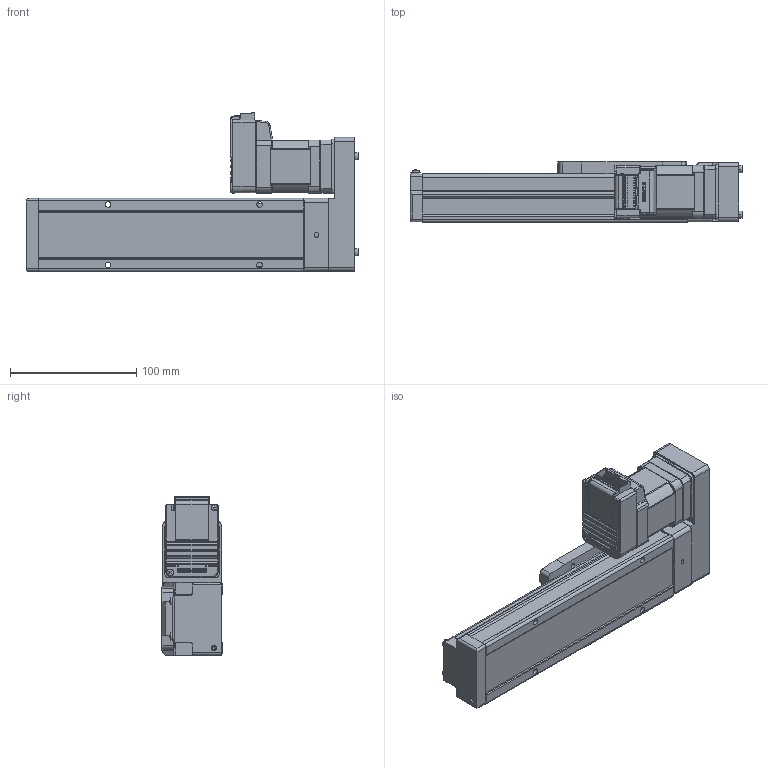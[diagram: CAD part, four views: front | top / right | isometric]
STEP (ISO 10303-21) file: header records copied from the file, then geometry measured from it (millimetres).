
FILE_DESCRIPTION (( 'STEP AP214' ), '1' );
FILE_NAME ('LEFS3(+)-25LNM1□-100-17L.STEP', '2023-05-31T05:10:07', ( '' ), ( '' ), 'SwSTEP 2.0', 'SolidWorks 2019', '' );
FILE_SCHEMA (( 'AUTOMOTIVE_DESIGN' ));
Length unit declared in the file: millimetre
Products named in the file (5): CM3(+)-17L50A; LEFS3(+)-25R(L)NM1仩_BODY_100; LEFS3(+)-25R(L)NM1仩_MOTOR Flange; LEFS3(+)-25NM1_TABLE; LEFS3(+)-25LNM1□-100-17L
Assembly tree (4 placements, depth 2):
  LEFS3(+)-25LNM1□-100-17L
    LEFS3(+)-25R(L)NM1仩_BODY_100
    LEFS3(+)-25NM1_TABLE
    LEFS3(+)-25R(L)NM1仩_MOTOR Flange
    CM3(+)-17L50A
Bounding box: 262.9 x 48 x 125.85 mm (x, y, z)
Volume: 745521.6 mm3; surface area: 112814.3 mm2
Topology: 5 solids, 5 shells, 1011 faces, 2596 edges, 1636 vertices
Faces by surface type: plane 529, cylinder 310, cone 83, torus 39, bspline 29, sphere 21
Entity records: 41365 total; most frequent: CARTESIAN_POINT 7434, ORIENTED_EDGE 5130, DIRECTION 4944, EDGE_CURVE 2565, AXIS2_PLACEMENT_3D 1658, VERTEX_POINT 1636, VECTOR 1628, LINE 1628
